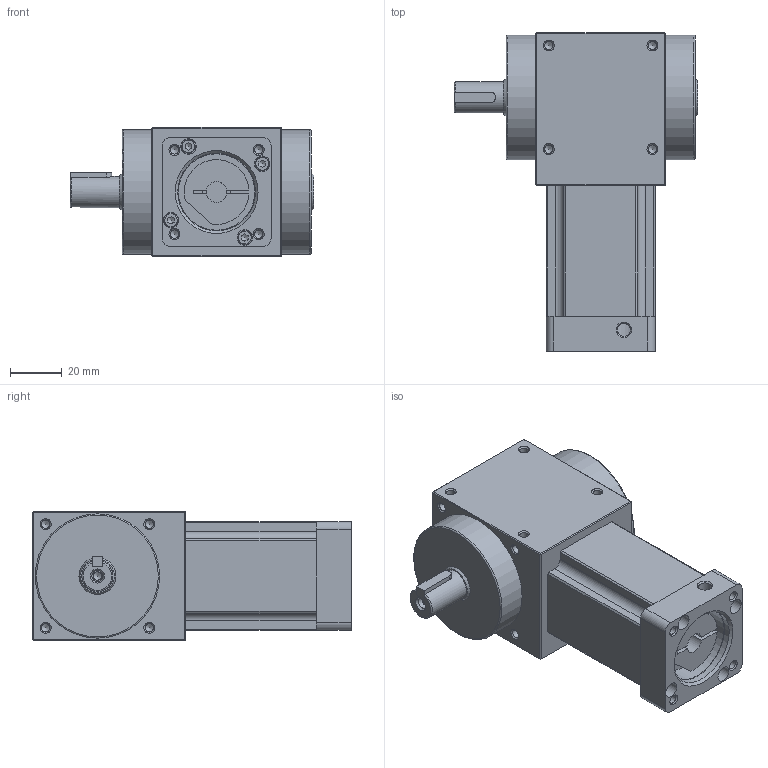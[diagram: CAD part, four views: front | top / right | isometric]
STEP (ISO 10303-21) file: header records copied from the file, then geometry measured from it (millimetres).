
FILE_DESCRIPTION((''),'2;1');
FILE_NAME('D:\유성\SBT 베벨기어박스\최종도면모음\3D\SBT050\SBT050PLS003~010K.stp','2014-05-19T15:33:16',(''),(''),'Autodesk Inventor 2013','Autodesk Inventor 2013','');
FILE_SCHEMA(('AUTOMOTIVE_DESIGN { 1 0 10303 214 1 1 1 1 }'));
Length unit declared in the file: millimetre
Products named in the file (1): SBT050PLS003~010K_Shrinkwrap_1
Bounding box: 94 x 123 x 50 mm (x, y, z)
Volume: 285530.6 mm3; surface area: 38587.2 mm2
Topology: 1 solids, 5 shells, 273 faces, 709 edges, 439 vertices
Faces by surface type: plane 107, cylinder 92, cone 63, torus 11
Full cylindrical faces by diameter (mm): 3 x4, 3.242 x45, 3.4 x4, 4 x2, 4.3 x1, 5 x1, 5.5 x4, 6 x4, 8 x1, 11 x1, 12 x1, 29.5 x1, 30 x1, 33.5 x1, 48 x2
Entity records: 7075 total; most frequent: DIRECTION 1264, CARTESIAN_POINT 1247, ORIENTED_EDGE 976, AXIS2_PLACEMENT_3D 531, EDGE_CURVE 488, EDGE_LOOP 448, VERTEX_POINT 364, FACE_OUTER_BOUND 273
